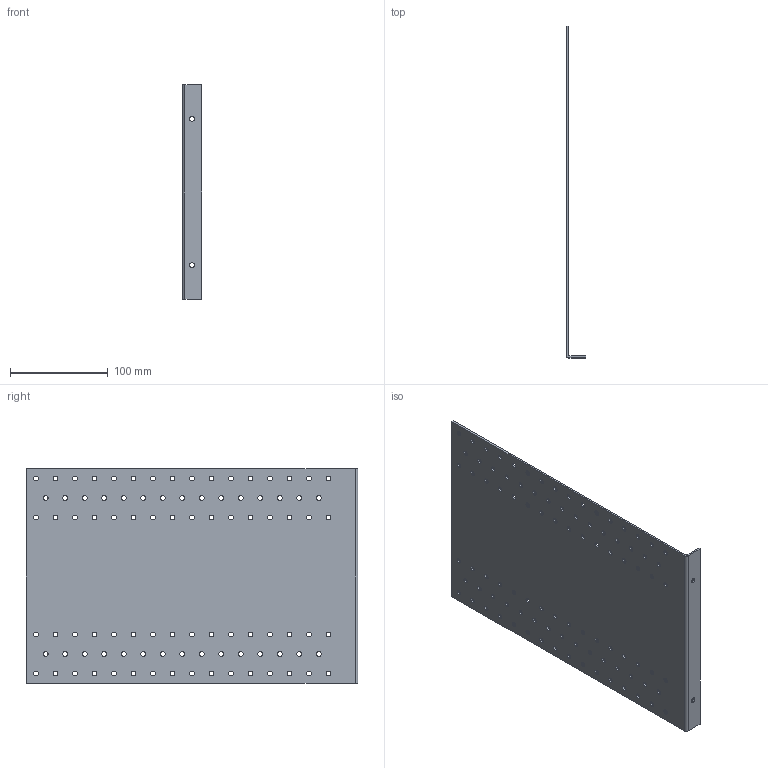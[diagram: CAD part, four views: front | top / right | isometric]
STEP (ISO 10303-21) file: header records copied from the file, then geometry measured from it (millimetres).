
FILE_DESCRIPTION (( 'STEP AP203' ), '1' );
FILE_NAME ('234.STEP', '2020-04-17T13:01:23', ( '' ), ( '' ), 'SwSTEP 2.0', 'SolidWorks 2013', '' );
FILE_SCHEMA (( 'CONFIG_CONTROL_DESIGN' ));
Length unit declared in the file: millimetre
Products named in the file (1): 234
Bounding box: 20 x 340 x 220 mm (x, y, z)
Volume: 153423 mm3; surface area: 158748 mm2
Topology: 1 solids, 1 shells, 206 faces, 604 edges, 400 vertices
Faces by surface type: cylinder 194, plane 12
Entity records: 7533 total; most frequent: DIRECTION 1406, CARTESIAN_POINT 1211, ORIENTED_EDGE 1208, EDGE_CURVE 604, AXIS2_PLACEMENT_3D 595, VERTEX_POINT 400, EDGE_LOOP 398, CIRCLE 388
